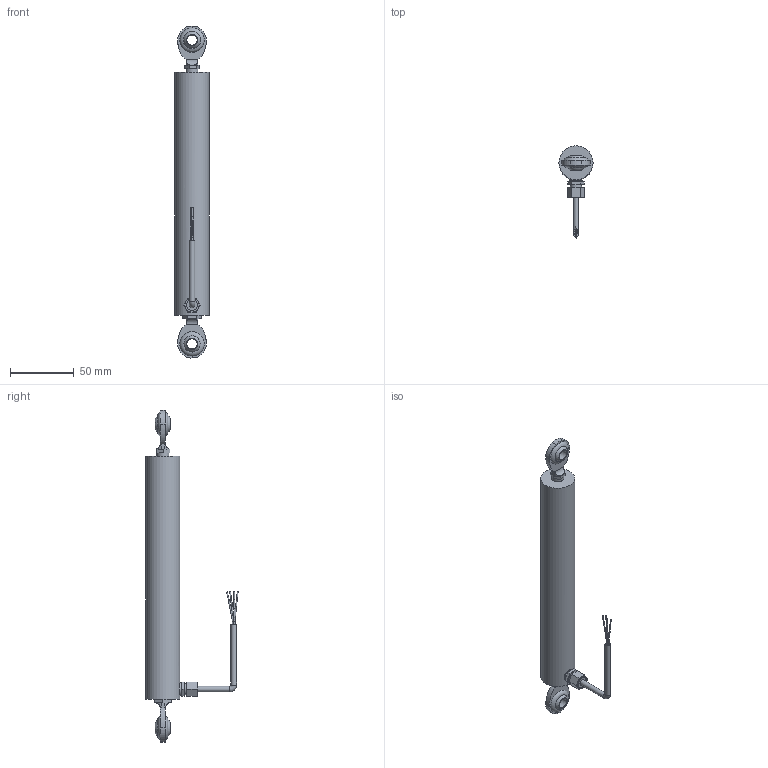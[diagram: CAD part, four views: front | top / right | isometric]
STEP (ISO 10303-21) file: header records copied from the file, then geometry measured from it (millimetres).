
FILE_DESCRIPTION(/* description */ (''),/* implementation_level */ '2;1');
FILE_NAME(/* name */ 'ILPS-27-100-R-00-YY-Z (wrapped).step',/* time_stamp */ '2024-02-08T12:54:51-05:00',/* author */ ('TSC_Grant'),/* organization */ (''),/* preprocessor_version */ 'ST-DEVELOPER v19.2',/* originating_system */ 'Autodesk Inventor 2024',/* authorisation */ '');
FILE_SCHEMA (('AUTOMOTIVE_DESIGN { 1 0 10303 214 3 1 1 }'));
Length unit declared in the file: inch
Products named in the file (4): ILPS-27-100-R-00-50-A (wrapped); ILPS-27-100-R-00-50-A Housing (wrapped); ILPS-27-100-R-00-50-A Shaft (wrapped); LZ-33 Cable
Assembly tree (3 placements, depth 2):
  ILPS-27-100-R-00-50-A (wrapped)
    ILPS-27-100-R-00-50-A Housing (wrapped)
    ILPS-27-100-R-00-50-A Shaft (wrapped)
    LZ-33 Cable
Bounding box: 26.67 x 72.34 x 260.32 mm (x, y, z)
Volume: 109290.1 mm3; surface area: 32212 mm2
Topology: 4 solids, 4 shells, 152 faces, 344 edges, 226 vertices
Faces by surface type: plane 76, cylinder 55, bspline 8, torus 6, sphere 4, cone 3
Full cylindrical faces by diameter (mm): 0.635 x4, 0.762 x4, 4.369 x3, 4.572 x2, 6.35 x1, 6.858 x1, 8 x2, 8.712 x2, 9.398 x2, 10.999 x1, 26.67 x1
Entity records: 5087 total; most frequent: CARTESIAN_POINT 1205, DIRECTION 756, ORIENTED_EDGE 686, EDGE_CURVE 343, AXIS2_PLACEMENT_3D 305, VERTEX_POINT 226, EDGE_LOOP 185, STYLED_ITEM 156
